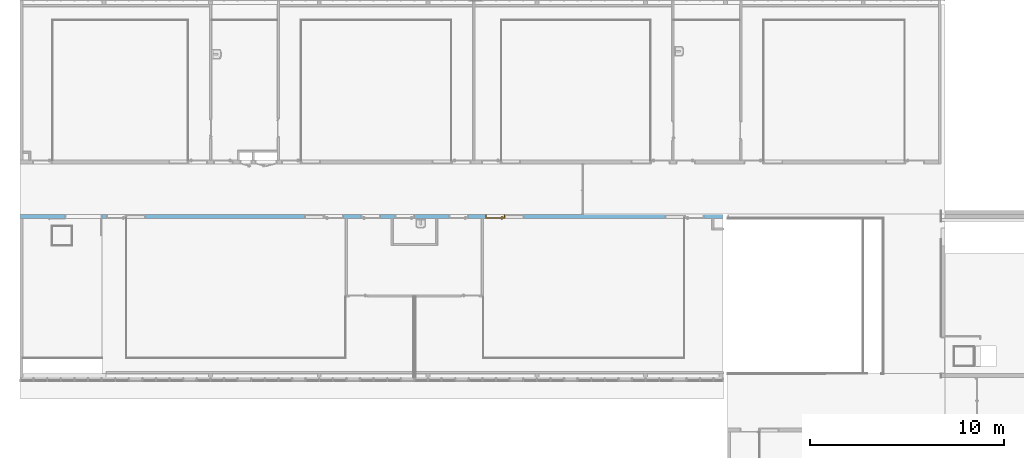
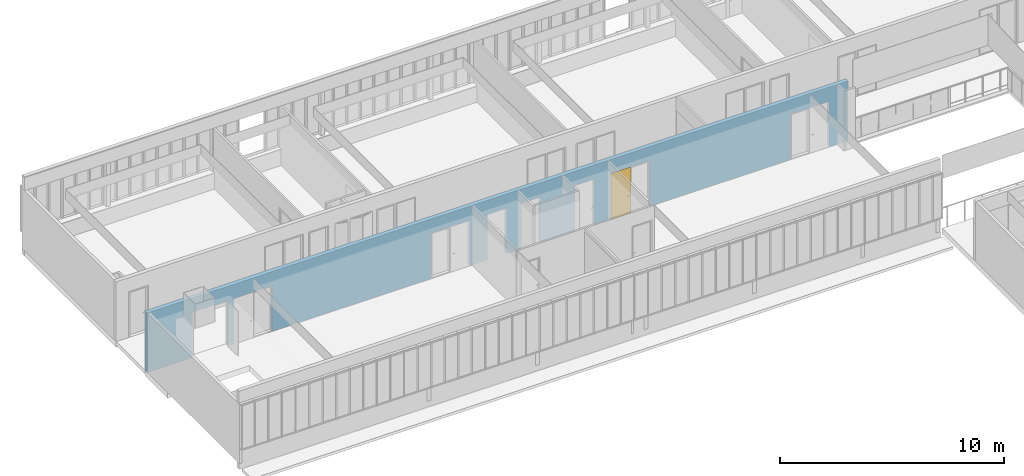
# One storey, part 34 of 87: 1 door, 12 openings, plus 1 element that does not belong to this part.
"""IFC2X3 building model written with IfcOpenShell, lengths in centimetres."""

from ifc_helpers import new_model, entity, si_unit, converted_unit, derived_unit, direction, frame, frame_2d, origin, place, context, subcontext, project, spatial, rectangle, extrude, faceted_brep, source, transform, mapped, material, material_list, layer, layer_set, layer_usage, type_object, type_shapes, element, fill, save


model = new_model("IFC2X3")

# Units and contexts
model_context = context("Model", 3, precision=0.001, world=origin(), true_north=direction((6.12303176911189e-17, 1.0)))
body_context = subcontext(model_context, "Body", "Model", "MODEL_VIEW")
ifc_project = project(units=[si_unit("LENGTHUNIT", "METRE", prefix="CENTI"), si_unit("AREAUNIT", "SQUARE_METRE"), si_unit("VOLUMEUNIT", "CUBIC_METRE"), converted_unit("PLANEANGLEUNIT", "DEGREE", entity("IfcRatioMeasure", 0.0174532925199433), si_unit("PLANEANGLEUNIT", "RADIAN"), dimensions=[0, 0, 0, 0, 0, 0, 0]), si_unit("MASSUNIT", "GRAM", prefix="KILO"), derived_unit("MASSDENSITYUNIT", [(si_unit("MASSUNIT", "GRAM", prefix="KILO"), 1), (si_unit("LENGTHUNIT", "METRE"), -3)]), si_unit("TIMEUNIT", "SECOND"), si_unit("FREQUENCYUNIT", "HERTZ"), si_unit("THERMODYNAMICTEMPERATUREUNIT", "DEGREE_CELSIUS"), derived_unit("THERMALTRANSMITTANCEUNIT", [(si_unit("MASSUNIT", "GRAM", prefix="KILO"), 1), (si_unit("THERMODYNAMICTEMPERATUREUNIT", "KELVIN"), -1), (si_unit("TIMEUNIT", "SECOND"), -3)]), derived_unit("VOLUMETRICFLOWRATEUNIT", [(si_unit("LENGTHUNIT", "METRE"), 3), (si_unit("TIMEUNIT", "SECOND"), -1)]), si_unit("ELECTRICCURRENTUNIT", "AMPERE"), si_unit("ELECTRICVOLTAGEUNIT", "VOLT"), si_unit("POWERUNIT", "WATT"), si_unit("FORCEUNIT", "NEWTON", prefix="KILO"), si_unit("ILLUMINANCEUNIT", "LUX"), si_unit("LUMINOUSFLUXUNIT", "LUMEN"), si_unit("LUMINOUSINTENSITYUNIT", "CANDELA"), derived_unit("USERDEFINED", [(si_unit("MASSUNIT", "GRAM", prefix="KILO"), -1), (si_unit("LENGTHUNIT", "METRE"), -2), (si_unit("TIMEUNIT", "SECOND"), 3), (si_unit("LUMINOUSFLUXUNIT", "LUMEN"), 1)]), derived_unit("LINEARVELOCITYUNIT", [(si_unit("LENGTHUNIT", "METRE"), 1), (si_unit("TIMEUNIT", "SECOND"), -1)]), si_unit("PRESSUREUNIT", "PASCAL"), derived_unit("USERDEFINED", [(si_unit("LENGTHUNIT", "METRE"), -2), (si_unit("MASSUNIT", "GRAM", prefix="KILO"), 1), (si_unit("TIMEUNIT", "SECOND"), -2)])], contexts=[model_context])

# Site, building, storey
site_placement = place(None, frame((-2781.94577612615, 7442.24238424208, 0.0)))
site = spatial("IfcSite", under=ifc_project, at=site_placement, Name="Default", CompositionType="ELEMENT")
building_placement = place(site_placement, origin())
building = spatial("IfcBuilding", under=site, at=building_placement, CompositionType="ELEMENT")
storey_placement = place(building_placement, frame((0.0, 0.0, 774.0)))
storey = spatial("IfcBuildingStorey", under=building, at=storey_placement, Name="TR - N02 - ARCH", CompositionType="ELEMENT", Elevation=774.0)

# Wall, openings, door
ifc_material_1 = material(Name="01 - Maçonnerie")
ifc_layer = layer(ifc_material_1, 20.0)
ifc_layer_set = layer_set([ifc_layer], Name="Mur de base:04 - Structure - béton - 20cm")
ifc_layer_usage = layer_usage(ifc_layer_set, "AXIS2", "NEGATIVE", 10.0)
wall_type = type_object("IfcWallType", Name="Mur de base:04 - Structure - béton - 20cm", PredefinedType="STANDARD", material=ifc_layer_set)
wall_placement = place(storey_placement, frame((-4791.99987760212, -1100.0, 0.0), z_axis=(0.0, 0.0, 1.0), x_axis=(-1.0, 0.0, 0.0)))
wall = element("IfcWallStandardCase", 1, at=wall_placement, inside=storey, type_object=wall_type, material=ifc_layer_usage, Name="Mur de base:04 - Structure - béton - 20cm", ObjectType="Mur de base:04 - Structure - béton - 20cm", context=body_context, shape_type="SweptSolid", body=[
    extrude(rectangle(XDim=3617.50000006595, YDim=20.0000000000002, at=frame_2d((1808.75000003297, -3.99680288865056e-14), x_axis=(-1.0, 0.0))), origin(), (0.0, 0.0, 1.0), 326.0),
])
opening_1_placement = place(wall_placement, frame((3071.50016406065, -10.0, 0.0)))
element("IfcOpeningElement", 2, at=opening_1_placement, cuts=wall, Name="Int. Simple:PV (0.93m x 2.50m):1", ObjectType="Opening", context=body_context, shape_type="SweptSolid", body=[
    extrude(rectangle(XDim=248.500000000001, YDim=99.9999999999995, at=frame_2d((124.250000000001, 49.9999999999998), x_axis=(1.0, 0.0))), frame((0.0, 0.0, 0.0), z_axis=(0.0, 1.0, 0.0), x_axis=(0.0, 0.0, 1.0)), (0.0, 0.0, 1.0), 20.0),
])
opening_2_placement = place(wall_placement, frame((1952.5, -10.0, 0.0)))
element("IfcOpeningElement", 3, at=opening_2_placement, cuts=wall, Name="Int. Simple:PV (0.93m x 2.50m):1", ObjectType="Opening", context=body_context, shape_type="SweptSolid", body=[
    extrude(rectangle(XDim=248.500000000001, YDim=99.9999999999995, at=frame_2d((124.250000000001, 50.0), x_axis=(1.0, 0.0))), frame((0.0, 0.0, 0.0), z_axis=(0.0, 1.0, 0.0), x_axis=(0.0, 0.0, 1.0)), (0.0, 0.0, 1.0), 20.0),
])
opening_3_placement = place(wall_placement, frame((1762.50000000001, -10.0, 0.0)))
element("IfcOpeningElement", 4, at=opening_3_placement, cuts=wall, Name="Int. Simple:PP simple (0.93m x 2.50m):1", ObjectType="Opening", context=body_context, shape_type="SweptSolid", body=[
    extrude(rectangle(XDim=248.500000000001, YDim=99.9999999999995, at=frame_2d((124.250000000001, 50.0), x_axis=(1.0, 0.0))), frame((0.0, 0.0, 0.0), z_axis=(0.0, 1.0, 0.0), x_axis=(0.0, 0.0, 1.0)), (0.0, 0.0, 1.0), 20.0),
])
opening_4_placement = place(wall_placement, frame((1310.5, -10.0, 0.0)))
element("IfcOpeningElement", 5, at=opening_4_placement, cuts=wall, Name="Int. Simple:PP simple (0.93m x 2.50m):1", ObjectType="Opening", context=body_context, shape_type="SweptSolid", body=[
    extrude(rectangle(XDim=248.500000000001, YDim=99.9999999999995, at=frame_2d((124.250000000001, 49.9999999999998), x_axis=(1.0, 0.0))), frame((0.0, 0.0, 0.0), z_axis=(0.0, 1.0, 0.0), x_axis=(0.0, 0.0, 1.0)), (0.0, 0.0, 1.0), 20.0),
])
opening_5_placement = place(wall_placement, frame((1587.5, -10.0, 0.0)))
element("IfcOpeningElement", 6, at=opening_5_placement, cuts=wall, Name="Int. Simple:PP simple (0.93m x 2.50m):1", ObjectType="Opening", context=body_context, shape_type="SweptSolid", body=[
    extrude(rectangle(XDim=248.500000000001, YDim=99.9999999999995, at=frame_2d((124.250000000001, 49.9999999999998), x_axis=(1.0, 0.0))), frame((0.0, 0.0, 0.0), z_axis=(0.0, 1.0, 0.0), x_axis=(0.0, 0.0, 1.0)), (0.0, 0.0, 1.0), 20.0),
])
opening_6_placement = place(wall_placement, frame((1122.5, -10.0, 0.0)))
opening_6 = element("IfcOpeningElement", 7, at=opening_6_placement, cuts=wall, Name="Int. Simple:PV (0.93m x 2.50m):1", ObjectType="Opening", context=body_context, shape_type="SweptSolid", body=[
    extrude(rectangle(XDim=248.500000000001, YDim=99.9999999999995, at=frame_2d((124.250000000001, 49.9999999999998), x_axis=(1.0, 0.0))), frame((0.0, 0.0, 0.0), z_axis=(0.0, 1.0, 0.0), x_axis=(0.0, 0.0, 1.0)), (0.0, 0.0, 1.0), 20.0),
])
opening_7_placement = place(wall_placement, frame((97.5000000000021, -10.0, 0.0)))
element("IfcOpeningElement", 8, at=opening_7_placement, cuts=wall, Name="Int. Simple:PV (0.93m x 2.50m):1", ObjectType="Opening", context=body_context, shape_type="SweptSolid", body=[
    extrude(rectangle(XDim=248.500000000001, YDim=99.9999999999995, at=frame_2d((124.250000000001, 50.0), x_axis=(1.0, 0.0))), frame((0.0, 0.0, 0.0), z_axis=(0.0, 1.0, 0.0), x_axis=(0.0, 0.0, 1.0)), (0.0, 0.0, 1.0), 20.0),
])
opening_8_placement = place(wall_placement, frame((1022.5, -10.0, 0.0)))
element("IfcOpeningElement", 9, at=opening_8_placement, cuts=wall, Name="châssis intérieur vitré:châssis intérieur vitré (h=270) R+1:1", ObjectType="Opening", context=body_context, shape_type="SweptSolid", body=[
    extrude(rectangle(XDim=250.0, YDim=99.9999999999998, at=frame_2d((125.0, 49.9999999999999), x_axis=(1.0, 0.0))), frame((0.0, 0.0, 0.0), z_axis=(0.0, 1.0, 0.0), x_axis=(0.0, 0.0, 1.0)), (0.0, 0.0, 1.0), 20.0),
])
opening_9_placement = place(wall_placement, frame((197.500000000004, -10.0, 0.0)))
element("IfcOpeningElement", 10, at=opening_9_placement, cuts=wall, Name="châssis intérieur vitré:châssis intérieur vitré (h=270) R+1:1", ObjectType="Opening", context=body_context, shape_type="SweptSolid", body=[
    extrude(rectangle(XDim=250.0, YDim=99.9999999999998, at=frame_2d((125.0, 49.9999999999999), x_axis=(1.0, 0.0))), frame((0.0, 0.0, 0.0), z_axis=(0.0, 1.0, 0.0), x_axis=(0.0, 0.0, 1.0)), (0.0, 0.0, 1.0), 20.0),
])
opening_10_placement = place(wall_placement, frame((2052.5, -10.0, 0.0)))
element("IfcOpeningElement", 11, at=opening_10_placement, cuts=wall, Name="châssis intérieur vitré:châssis intérieur vitré (h=270) R+1:1", ObjectType="Opening", context=body_context, shape_type="SweptSolid", body=[
    extrude(rectangle(XDim=250.0, YDim=99.9999999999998, at=frame_2d((125.0, 49.9999999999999), x_axis=(1.0, 0.0))), frame((0.0, 0.0, 0.0), z_axis=(0.0, 1.0, 0.0), x_axis=(0.0, 0.0, 1.0)), (0.0, 0.0, 1.0), 20.0),
])
opening_11_placement = place(wall_placement, frame((2971.50016406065, -10.0, 0.0)))
element("IfcOpeningElement", 12, at=opening_11_placement, cuts=wall, Name="châssis intérieur vitré:châssis intérieur vitré (h=270) R+1:1", ObjectType="Opening", context=body_context, shape_type="SweptSolid", body=[
    extrude(rectangle(XDim=250.0, YDim=99.9999999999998, at=frame_2d((125.0, 49.9999999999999), x_axis=(1.0, 0.0))), frame((0.0, 0.0, 0.0), z_axis=(0.0, 1.0, 0.0), x_axis=(0.0, 0.0, 1.0)), (0.0, 0.0, 1.0), 20.0),
])
opening_12_placement = place(wall_placement, frame((3196.0, -10.0, 0.0)))
element("IfcOpeningElement", 13, at=opening_12_placement, cuts=wall, Name="Int. Double:PP (1.83m x 2.04m):1", ObjectType="Opening", context=body_context, shape_type="SweptSolid", body=[
    extrude(rectangle(XDim=248.500000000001, YDim=190.0, at=frame_2d((124.250000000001, 95.0000000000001), x_axis=(1.0, 0.0))), frame((0.0, 0.0, 0.0), z_axis=(0.0, 1.0, 0.0), x_axis=(0.0, 0.0, 1.0)), (0.0, 0.0, 1.0), 20.0),
])
ifc_material_2 = material(Name="Finition Peinture - Blanc satiné")
ifc_material_3 = material(Name="Bois - Panneau de porte")
ifc_material_4 = material(Name="Bois - Cadre de porte")
ifc_material_list_1 = material_list([ifc_material_2, ifc_material_3, ifc_material_4])
ifc_material_list_2 = material_list([ifc_material_2, ifc_material_3, ifc_material_4])
door_style = type_object("IfcDoorStyle", Name="PV (0.93m x 2.50m)", ConstructionType="NOTDEFINED", OperationType="SINGLE_SWING_RIGHT", ParameterTakesPrecedence=False, Sizeable=False, material=ifc_material_list_2)
shared_shape = source(origin(), body_context, "Body", "Brep", [
    faceted_brep([(99.5000000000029, -0.500000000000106, 87.0), (99.5000000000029, -0.500000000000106, 108.0), (98.535276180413, -0.500000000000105, 108.399601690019), (97.5000000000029, -0.500000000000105, 108.535898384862), (96.4647238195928, -0.500000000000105, 108.399601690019), (95.500000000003, -0.500000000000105, 108.0), (95.5000000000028, -0.500000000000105, 87.0), (96.4647238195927, -0.500000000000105, 86.6003983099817), (97.5000000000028, -0.500000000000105, 86.464101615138), (98.5352761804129, -0.500000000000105, 86.6003983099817), (99.5000000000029, 0.0, 108.0), (99.5000000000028, 0.0, 87.0), (98.5352761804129, 0.0, 86.6003983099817), (97.5000000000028, 0.0, 86.464101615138), (96.4647238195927, 0.0, 86.6003983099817), (95.5000000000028, 0.0, 87.0), (95.5000000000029, 0.0, 108.0), (96.4647238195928, 0.0, 108.399601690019), (97.5000000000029, 0.0, 108.535898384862), (98.535276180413, 0.0, 108.399601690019)], [[[0, 1, 2, 3, 4, 5, 6, 7, 8, 9]], [[10, 11, 12, 13, 14, 15, 16, 17, 18, 19]], [[9, 12, 11, 0]], [[8, 13, 12, 9]], [[7, 14, 13, 8]], [[7, 6, 15, 14]], [[15, 6, 5, 16]], [[4, 17, 16, 5]], [[3, 18, 17, 4]], [[2, 19, 18, 3]], [[2, 1, 10, 19]], [[11, 10, 1, 0]]]),
    faceted_brep([(99.5000000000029, 4.0, 87.0), (99.5000000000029, 4.0, 108.0), (98.535276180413, 4.0, 108.399601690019), (97.5000000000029, 4.0, 108.535898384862), (96.4647238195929, 4.0, 108.399601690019), (95.500000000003, 4.0, 108.0), (95.5000000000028, 4.0, 87.0), (96.4647238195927, 4.0, 86.6003983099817), (97.5000000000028, 4.0, 86.464101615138), (98.5352761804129, 4.0, 86.6003983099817), (97.5000000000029, 4.49999999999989, 108.535898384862), (98.535276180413, 4.49999999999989, 108.399601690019), (99.5000000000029, 4.49999999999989, 108.0), (99.5000000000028, 4.49999999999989, 87.0), (98.5352761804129, 4.49999999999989, 86.6003983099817), (97.5000000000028, 4.49999999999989, 86.464101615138), (96.4647238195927, 4.49999999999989, 86.6003983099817), (95.5000000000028, 4.49999999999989, 87.0), (95.500000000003, 4.49999999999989, 108.0), (96.4647238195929, 4.49999999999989, 108.399601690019)], [[[0, 1, 2, 3, 4, 5, 6, 7, 8, 9]], [[10, 11, 12, 13, 14, 15, 16, 17, 18, 19]], [[4, 19, 18, 5]], [[3, 10, 19, 4]], [[2, 11, 10, 3]], [[2, 1, 12, 11]], [[13, 12, 1, 0]], [[9, 14, 13, 0]], [[8, 15, 14, 9]], [[7, 16, 15, 8]], [[7, 6, 17, 16]], [[17, 6, 5, 18]]]),
    faceted_brep([(97.2974701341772, -0.500000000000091, 100.778044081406), (97.7025298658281, -0.500000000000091, 100.778044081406), (98.1000000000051, -0.500000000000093, 100.699999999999), (98.100000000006, -0.500000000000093, 99.2999999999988), (97.7025298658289, -0.500000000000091, 99.221955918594), (97.297470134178, -0.500000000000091, 99.2219559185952), (96.9000000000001, -0.500000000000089, 99.3000000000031), (96.9000000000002, -0.500000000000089, 100.7), (97.7025298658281, -3.10045754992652, 100.778044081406), (98.1000000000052, -3.26509507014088, 100.7), (97.2974701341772, -2.93267631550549, 100.778044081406), (95.9298602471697, -4.30028620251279, 100.778044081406), (96.0976414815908, -4.70534593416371, 100.778044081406), (96.9000000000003, -2.76803879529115, 100.7), (96.9000000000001, -2.76803879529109, 99.3000000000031), (97.297470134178, -2.93267631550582, 99.2219559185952), (97.7025298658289, -3.10045754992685, 99.221955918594), (96.0976414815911, -4.70534593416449, 99.221955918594), (95.9298602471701, -4.30028620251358, 99.2219559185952), (98.100000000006, -3.26509507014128, 99.2999999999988), (96.2622790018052, -5.1028160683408, 100.7), (95.7652227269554, -3.90281606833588, 100.7), (95.7652227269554, -3.90281606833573, 99.3000000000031), (96.2622790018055, -5.10281606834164, 99.2999999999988), (87.4981359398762, -5.10281606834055, 100.7), (87.4981359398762, -4.70534593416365, 100.778044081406), (87.4981359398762, -4.30028620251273, 100.778044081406), (87.4981359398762, -3.90281606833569, 100.699999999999), (87.4981359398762, -3.90281606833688, 99.3000000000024), (87.4981359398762, -4.30028620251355, 99.2219559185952), (87.4981359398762, -4.70534593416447, 99.221955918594), (87.4981359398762, -5.10281606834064, 99.2999999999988), (91.7139980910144, -4.5028160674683, 100.78786867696), (92.2692302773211, -5.1028160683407, 100.7), (91.6316793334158, -3.9028160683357, 100.7), (91.631679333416, -3.90281606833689, 99.3000000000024), (91.7139981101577, -4.50281607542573, 99.2121313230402), (92.2692310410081, -5.10281606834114, 99.2999999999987)], [[[0, 1, 2, 3, 4, 5, 6, 7]], [[2, 1, 8, 9]], [[1, 0, 10, 11, 12, 8]], [[0, 7, 13, 10]], [[14, 13, 7, 6]], [[5, 15, 14, 6]], [[5, 4, 16, 17, 18, 15]], [[3, 19, 16, 4]], [[9, 19, 3, 2]], [[9, 8, 12, 20]], [[10, 13, 21, 11]], [[22, 21, 13, 14]], [[14, 15, 18, 22]], [[16, 19, 23, 17]], [[20, 23, 19, 9]], [[24, 25, 26, 27, 28, 29, 30, 31]], [[32, 25, 33]], [[33, 25, 24]], [[33, 20, 12]], [[11, 34, 32]], [[34, 11, 21]], [[27, 26, 34]], [[32, 26, 25]], [[32, 34, 26]], [[32, 33, 12]], [[11, 32, 12]], [[21, 22, 35, 28, 27, 34]], [[36, 29, 35]], [[30, 36, 37]], [[18, 35, 22]], [[29, 28, 35]], [[30, 37, 31]], [[37, 17, 23]], [[36, 17, 37]], [[36, 18, 17]], [[36, 35, 18]], [[29, 36, 30]], [[23, 20, 33, 24, 31, 37]]]),
    faceted_brep([(97.2974701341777, 4.49999999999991, 99.2219559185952), (97.7025298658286, 4.49999999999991, 99.221955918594), (98.1000000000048, 4.4999999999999, 99.2999999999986), (98.1000000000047, 4.4999999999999, 100.7), (97.7025298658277, 4.49999999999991, 100.778044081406), (97.2974701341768, 4.49999999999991, 100.778044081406), (96.8999999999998, 4.49999999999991, 100.7), (96.900000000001, 4.49999999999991, 99.3000000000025), (96.8999999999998, 6.7485204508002, 100.7), (96.8999999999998, 6.74852045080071, 99.3000000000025), (97.2974701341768, 6.91315797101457, 100.778044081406), (97.7025298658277, 7.0809392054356, 100.778044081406), (96.0838906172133, 8.69957845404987, 100.778044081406), (95.9161093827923, 8.29451872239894, 100.778044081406), (98.1000000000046, 7.24557672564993, 100.7), (98.1000000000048, 7.24557672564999, 99.2999999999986), (97.7025298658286, 7.08093920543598, 99.221955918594), (97.2974701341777, 6.91315797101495, 99.2219559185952), (95.9161093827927, 8.29451872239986, 99.2219559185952), (96.0838906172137, 8.69957845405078, 99.221955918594), (95.751471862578, 7.89704858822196, 100.7), (95.7514718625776, 7.89704858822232, 99.3000000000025), (96.2485281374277, 9.09704858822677, 100.7), (96.2485281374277, 9.09704858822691, 99.2999999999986), (87.4954216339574, 8.29451872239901, 100.778044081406), (87.4954216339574, 8.69957845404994, 100.778044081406), (87.4954216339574, 9.09704858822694, 100.7), (87.4954216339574, 9.09704858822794, 99.2999999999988), (87.4954216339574, 8.6995784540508, 99.221955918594), (87.4954216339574, 8.29451872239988, 99.2219559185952), (87.4954216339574, 7.89704858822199, 99.3000000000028), (87.4954216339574, 7.89704858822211, 100.7), (91.6234467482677, 7.89704858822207, 100.7), (91.6234479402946, 7.89704858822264, 99.3000000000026), (91.7057655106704, 8.49704858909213, 100.78786867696), (92.255479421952, 9.09704858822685, 100.7), (92.2554795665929, 9.09704858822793, 99.2999999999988), (91.7057654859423, 8.49704858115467, 99.2121313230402)], [[[0, 1, 2, 3, 4, 5, 6, 7]], [[8, 9, 7, 6]], [[5, 10, 8, 6]], [[5, 4, 11, 12, 13, 10]], [[3, 14, 11, 4]], [[14, 3, 2, 15]], [[2, 1, 16, 15]], [[1, 0, 17, 18, 19, 16]], [[0, 7, 9, 17]], [[20, 21, 9, 8]], [[8, 10, 13, 20]], [[14, 22, 12, 11]], [[23, 22, 14, 15]], [[15, 16, 19, 23]], [[17, 9, 21, 18]], [[24, 25, 26, 27, 28, 29, 30, 31]], [[21, 20, 32, 31, 30, 33]], [[34, 24, 32]], [[25, 34, 35]], [[13, 32, 20]], [[24, 31, 32]], [[25, 35, 26]], [[35, 12, 22]], [[34, 12, 35]], [[34, 13, 12]], [[34, 32, 13]], [[24, 34, 25]], [[22, 23, 36, 27, 26, 35]], [[37, 28, 36]], [[36, 28, 27]], [[36, 23, 19]], [[18, 33, 37]], [[33, 18, 21]], [[30, 29, 33]], [[37, 29, 28]], [[37, 33, 29]], [[37, 36, 19]], [[18, 37, 19]]]),
    faceted_brep([(103.500000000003, 4.0, 245.0), (103.500000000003, 4.0, 0.0), (10.5000000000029, 4.0, 0.0), (10.5000000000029, 4.0, 245.0), (103.500000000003, 0.0, 245.0), (10.5000000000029, 0.0, 245.0), (10.5000000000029, 0.0, 0.0), (103.500000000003, 0.0, 0.0)], [[[0, 1, 2, 3]], [[4, 5, 6, 7]], [[3, 5, 4, 0]], [[2, 6, 5, 3]], [[1, 7, 6, 2]], [[0, 4, 7, 1]]]),
    faceted_brep([(107.0, 20.0, 0.0), (107.0, 0.0, 0.0), (108.500000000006, 0.0, 0.0), (108.500000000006, -0.500000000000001, 0.0), (103.500000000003, -0.500000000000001, 0.0), (103.500000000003, 4.0, 0.0), (102.0, 4.0, 0.0), (102.0, 20.5000000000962, 0.0), (108.500000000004, 20.5000000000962, 0.0), (108.500000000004, 20.0, 0.0), (108.500000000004, 20.0, 250.0), (5.50000000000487, 20.0, 250.0), (5.50000000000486, 20.0, 0.0), (7.0, 20.0, 0.0), (7.0, 20.0, 248.500000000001), (107.0, 20.0, 248.500000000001), (108.500000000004, 20.5000000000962, 250.0), (102.0, 20.5000000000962, 243.5), (12.0, 20.5000000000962, 243.5), (12.0, 20.5000000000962, 0.0), (5.50000000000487, 20.5000000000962, 0.0), (5.50000000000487, 20.5000000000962, 250.0), (102.0, 4.0, 243.5), (103.500000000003, 4.0, 245.0), (10.5000000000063, 4.0, 245.0), (10.5000000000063, 4.0, 0.0), (12.0, 4.0, 0.0), (12.0, 4.0, 243.5), (103.500000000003, -0.500000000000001, 245.0), (108.500000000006, -0.500000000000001, 250.0), (5.5000000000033, -0.500000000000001, 250.0), (5.50000000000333, -0.500000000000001, 0.0), (10.5000000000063, -0.500000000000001, 0.0), (10.5000000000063, -0.500000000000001, 245.0), (108.500000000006, 0.0, 250.0), (107.0, 0.0, 248.500000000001), (7.0, 0.0, 248.500000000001), (7.0, 0.0, 0.0), (5.5000000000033, 0.0, 0.0), (5.50000000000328, 0.0, 250.0)], [[[0, 1, 2, 3, 4, 5, 6, 7, 8, 9]], [[9, 10, 11, 12, 13, 14, 15, 0]], [[8, 16, 10, 9]], [[7, 17, 18, 19, 20, 21, 16, 8]], [[7, 6, 22, 17]], [[5, 23, 24, 25, 26, 27, 22, 6]], [[5, 4, 28, 23]], [[3, 29, 30, 31, 32, 33, 28, 4]], [[2, 34, 29, 3]], [[1, 35, 36, 37, 38, 39, 34, 2]], [[0, 15, 35, 1]], [[14, 13, 37, 36]], [[13, 12, 20, 19, 26, 25, 32, 31, 38, 37]], [[21, 20, 12, 11]], [[27, 26, 19, 18]], [[33, 32, 25, 24]], [[39, 38, 31, 30]], [[16, 21, 11, 10]], [[22, 27, 18, 17]], [[28, 33, 24, 23]], [[34, 39, 30, 29]], [[15, 14, 36, 35]]]),
])
type_shapes(door_style, [shared_shape])
door_placement = place(opening_6_placement, frame((107.0, 20.0, 0.0), z_axis=(0.0, 0.0, 1.0), x_axis=(-1.0, 0.0, 0.0)))
door = element("IfcDoor", 14, at=door_placement, inside=storey, type_object=door_style, material=ifc_material_list_1, Name="Int. Simple:PV (0.93m x 2.50m)", ObjectType="Int. Simple:PV (0.93m x 2.50m)", OverallHeight=248.500000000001, OverallWidth=99.9999999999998, context=body_context, shape_type="MappedRepresentation", body=[
    mapped(shared_shape, transform((0.0, 0.0, 0.0), scale=1.0)),
])
fill(opening_6, door)

save(model, "model.ifc")
